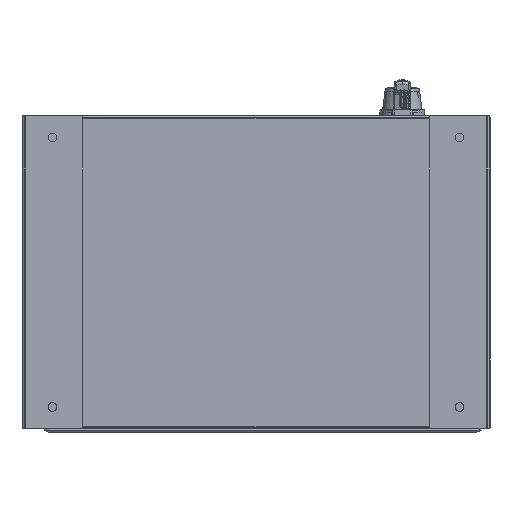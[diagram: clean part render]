
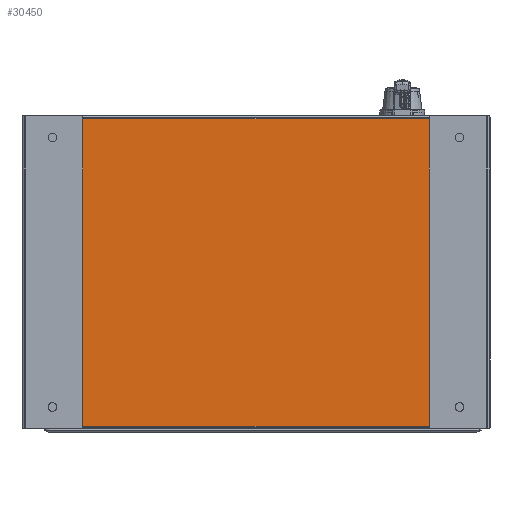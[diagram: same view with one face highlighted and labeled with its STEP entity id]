
A CAD part, front view. The second image highlights one B-rep face of the part: STEP entity #30450.
In plain terms, the highlighted planar face has unit normal (0, -1, 0).
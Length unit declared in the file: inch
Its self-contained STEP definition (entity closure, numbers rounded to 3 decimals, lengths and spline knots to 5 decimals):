
#11262 = FACE_OUTER_BOUND ( 'NONE', #84868, .T. ) ;
#11984 = DIRECTION ( 'NONE',  ( 0., 0., 1. ) ) ;
#14709 = LINE ( 'NONE', #106034, #145972 ) ;
#17903 = VECTOR ( 'NONE', #89862, 39.37008 ) ;
#21584 = LINE ( 'NONE', #40442, #161405 ) ;
#22144 = LINE ( 'NONE', #143771, #17903 ) ;
#24880 = DIRECTION ( 'NONE',  ( -1., 0., 0. ) ) ;
#27811 = ORIENTED_EDGE ( 'NONE', *, *, #121406, .T. ) ;
#30450 = ADVANCED_FACE ( 'NONE', ( #11262 ), #112036, .F. ) ;
#38506 = CARTESIAN_POINT ( 'NONE',  ( 13.37886, 0., 8.848 ) ) ;
#40442 = CARTESIAN_POINT ( 'NONE',  ( -13.37886, 0., -8.848 ) ) ;
#46777 = CARTESIAN_POINT ( 'NONE',  ( 13.313, 0., -8.848 ) ) ;
#51198 = VERTEX_POINT ( 'NONE', #142088 ) ;
#58755 = DIRECTION ( 'NONE',  ( 0., 0., 1. ) ) ;
#60214 = CARTESIAN_POINT ( 'NONE',  ( -13.313, 0., -8.848 ) ) ;
#84868 = EDGE_LOOP ( 'NONE', ( #27811, #141491, #114090, #152419 ) ) ;
#86045 = VERTEX_POINT ( 'NONE', #111044 ) ;
#87288 = VERTEX_POINT ( 'NONE', #46777 ) ;
#87390 = EDGE_CURVE ( 'NONE', #51198, #172134, #22144, .T. ) ;
#89862 = DIRECTION ( 'NONE',  ( 0., 0., -1. ) ) ;
#96916 = LINE ( 'NONE', #38506, #128683 ) ;
#98998 = CARTESIAN_POINT ( 'NONE',  ( -13.465, 0., 9. ) ) ;
#106034 = CARTESIAN_POINT ( 'NONE',  ( 13.313, 0., -8.91386 ) ) ;
#107068 = EDGE_CURVE ( 'NONE', #172134, #87288, #21584, .T. ) ;
#108476 = DIRECTION ( 'NONE',  ( 1., 0., 0. ) ) ;
#111044 = CARTESIAN_POINT ( 'NONE',  ( 13.313, 0., 8.848 ) ) ;
#111172 = EDGE_CURVE ( 'NONE', #86045, #51198, #96916, .T. ) ;
#112036 = PLANE ( 'NONE',  #136954 ) ;
#114090 = ORIENTED_EDGE ( 'NONE', *, *, #87390, .T. ) ;
#121406 = EDGE_CURVE ( 'NONE', #87288, #86045, #14709, .T. ) ;
#128683 = VECTOR ( 'NONE', #24880, 39.37008 ) ;
#136954 = AXIS2_PLACEMENT_3D ( 'NONE', #98998, #139841, #58755 ) ;
#139841 = DIRECTION ( 'NONE',  ( 0., 1., 0. ) ) ;
#141491 = ORIENTED_EDGE ( 'NONE', *, *, #111172, .T. ) ;
#142088 = CARTESIAN_POINT ( 'NONE',  ( -13.313, 0., 8.848 ) ) ;
#143771 = CARTESIAN_POINT ( 'NONE',  ( -13.313, 0., 8.91386 ) ) ;
#145972 = VECTOR ( 'NONE', #11984, 39.37008 ) ;
#152419 = ORIENTED_EDGE ( 'NONE', *, *, #107068, .T. ) ;
#161405 = VECTOR ( 'NONE', #108476, 39.37008 ) ;
#172134 = VERTEX_POINT ( 'NONE', #60214 ) ;
